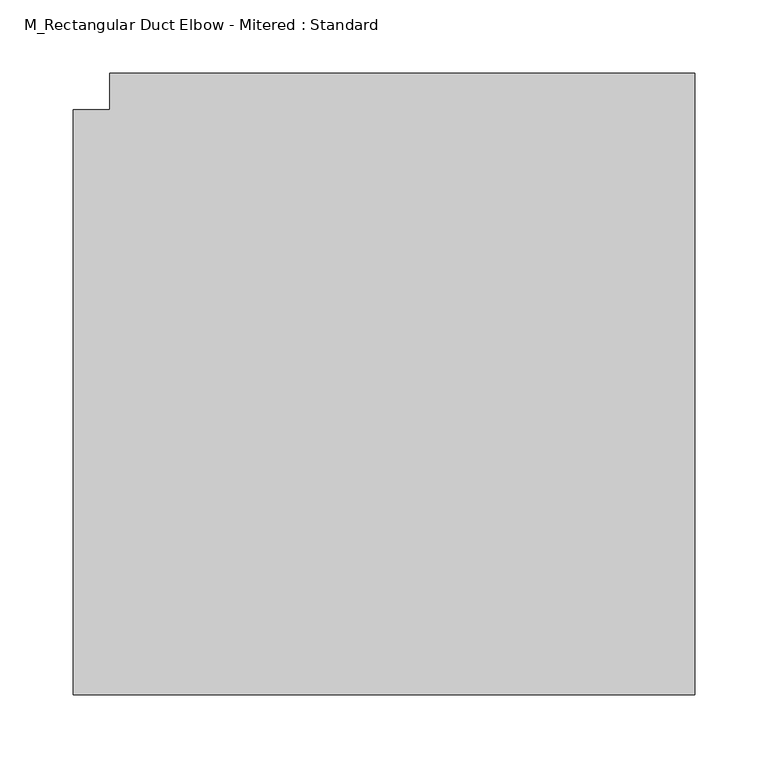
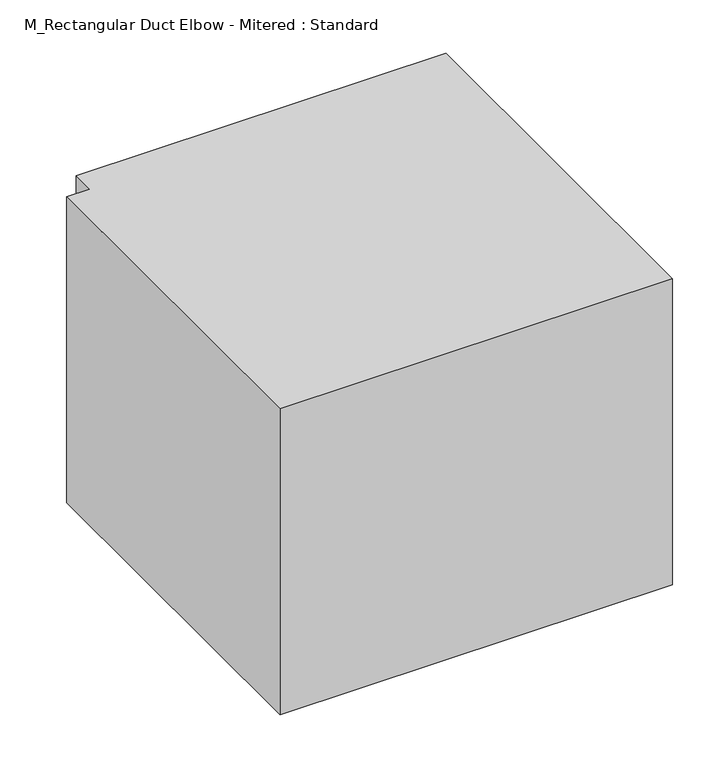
"""IFC4 building model written with IfcOpenShell, lengths in millimetres: duct fitting geometry, M_Rectangular Duct Elbow - Mitered : Standard."""

from ifc_helpers import new_model, si_unit, frame, origin, place, context, project, spatial, polyline, outline, extrude, source, transform, mapped, element, save


def m_rectangular_duct_elbow_mitered_standard_79ac9f87(model_context):
    return source(origin(), model_context, "Body", "SweptSolid", [
        extrude(outline(polyline([(-225.0, -200.0), (-225.0, 200.0), (-200.0, 200.0), (-200.0, 225.0), (200.0, 225.0), (200.0, -200.0), (-225.0, -200.0)])), frame((0.0, 0.0, -175.0), z_axis=(0.0, 0.0, 1.0), x_axis=(1.0, 0.0, 0.0)), (0.0, 0.0, 1.0), 350.0),
        extrude(outline(polyline([(-225.0, -200.0), (-225.0, 200.0), (-200.0, 200.0), (-200.0, 225.0), (200.0, 225.0), (200.0, -200.0), (-225.0, -200.0)])), frame((0.0, 0.0, -175.0), z_axis=(0.0, 0.0, 1.0), x_axis=(1.0, 0.0, 0.0)), (0.0, 0.0, 1.0), 350.0),
        extrude(outline(polyline([(-225.0, -200.0), (-225.0, 200.0), (-200.0, 200.0), (-200.0, 225.0), (200.0, 225.0), (200.0, -200.0), (-225.0, -200.0)])), frame((0.0, 0.0, -175.0), z_axis=(0.0, 0.0, 1.0), x_axis=(1.0, 0.0, 0.0)), (0.0, 0.0, 1.0), 350.0),
    ])


if __name__ == "__main__":
    model = new_model("IFC4")
    model_context = context("Model", 3, world=origin())
    ifc_project = project(units=[si_unit("LENGTHUNIT", "METRE", prefix="MILLI")], contexts=[model_context])
    site = spatial("IfcSite", under=ifc_project)
    building = spatial("IfcBuilding", under=site)
    placement = place(None, origin())
    m_rectangular_duct_elbow_mitered_standard_shape = m_rectangular_duct_elbow_mitered_standard_79ac9f87(model_context)
    element("IfcDuctFitting", 1, ObjectType="M_Rectangular Duct Elbow - Mitered : Standard", at=placement, inside=building, context=model_context, shape_type="MappedRepresentation", body=[
        mapped(m_rectangular_duct_elbow_mitered_standard_shape, transform((0.0, 0.0, 0.0), x_axis=(1.0, 0.0, 0.0), y_axis=(0.0, 1.0, 0.0), z_axis=(0.0, 0.0, 1.0))),
    ])
    save(model, "model.ifc")
